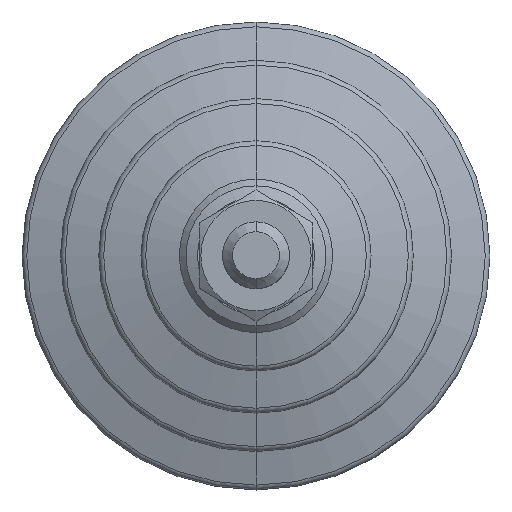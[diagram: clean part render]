
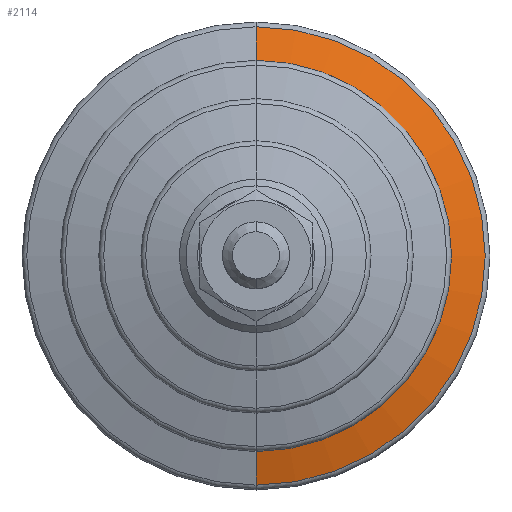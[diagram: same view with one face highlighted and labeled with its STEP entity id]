
A CAD part, top view. The second image highlights one B-rep face of the part: STEP entity #2114.
In plain terms, the highlighted conical face has half-angle 73.301 degrees and reference radius 29.262 mm.
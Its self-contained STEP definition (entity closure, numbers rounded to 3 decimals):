
#90 = CARTESIAN_POINT ( 'NONE',  ( 0., -29.262, 8.672 ) ) ;
#93 = VECTOR ( 'NONE', #1466, 1000. ) ;
#123 = LINE ( 'NONE', #90, #1906 ) ;
#137 = DIRECTION ( 'NONE',  ( 0., 0., -1. ) ) ;
#171 = AXIS2_PLACEMENT_3D ( 'NONE', #1662, #1879, #619 ) ;
#262 = DIRECTION ( 'NONE',  ( 0., -0.958, -0.287 ) ) ;
#335 = ORIENTED_EDGE ( 'NONE', *, *, #674, .T. ) ;
#513 = EDGE_CURVE ( 'NONE', #1470, #739, #830, .T. ) ;
#602 = CARTESIAN_POINT ( 'NONE',  ( 0., 0., 7.165 ) ) ;
#619 = DIRECTION ( 'NONE',  ( 0., 1., 0. ) ) ;
#644 = CIRCLE ( 'NONE', #794, 34.287 ) ;
#674 = EDGE_CURVE ( 'NONE', #739, #1273, #123, .T. ) ;
#730 = CARTESIAN_POINT ( 'NONE',  ( 0., 0., 8.672 ) ) ;
#734 = EDGE_CURVE ( 'NONE', #2218, #1273, #644, .T. ) ;
#739 = VERTEX_POINT ( 'NONE', #2236 ) ;
#771 = CONICAL_SURFACE ( 'NONE', #171, 29.262, 1.279 ) ;
#794 = AXIS2_PLACEMENT_3D ( 'NONE', #602, #816, #1158 ) ;
#816 = DIRECTION ( 'NONE',  ( 0., 0., -1. ) ) ;
#830 = CIRCLE ( 'NONE', #1050, 29.262 ) ;
#1050 = AXIS2_PLACEMENT_3D ( 'NONE', #730, #137, #1962 ) ;
#1125 = ORIENTED_EDGE ( 'NONE', *, *, #734, .F. ) ;
#1142 = LINE ( 'NONE', #1688, #93 ) ;
#1158 = DIRECTION ( 'NONE',  ( 0., 1., 0. ) ) ;
#1250 = CARTESIAN_POINT ( 'NONE',  ( 0., 29.262, 8.672 ) ) ;
#1273 = VERTEX_POINT ( 'NONE', #1413 ) ;
#1299 = CARTESIAN_POINT ( 'NONE',  ( 0., 34.287, 7.165 ) ) ;
#1413 = CARTESIAN_POINT ( 'NONE',  ( 0., -34.287, 7.165 ) ) ;
#1466 = DIRECTION ( 'NONE',  ( 0., 0.958, -0.287 ) ) ;
#1470 = VERTEX_POINT ( 'NONE', #1250 ) ;
#1662 = CARTESIAN_POINT ( 'NONE',  ( 0., 0., 8.672 ) ) ;
#1688 = CARTESIAN_POINT ( 'NONE',  ( 0., 29.262, 8.672 ) ) ;
#1771 = ORIENTED_EDGE ( 'NONE', *, *, #2196, .F. ) ;
#1853 = FACE_OUTER_BOUND ( 'NONE', #2012, .T. ) ;
#1879 = DIRECTION ( 'NONE',  ( 0., 0., -1. ) ) ;
#1906 = VECTOR ( 'NONE', #262, 1000. ) ;
#1962 = DIRECTION ( 'NONE',  ( 0., 1., 0. ) ) ;
#2012 = EDGE_LOOP ( 'NONE', ( #2110, #335, #1125, #1771 ) ) ;
#2110 = ORIENTED_EDGE ( 'NONE', *, *, #513, .T. ) ;
#2114 = ADVANCED_FACE ( 'NONE', ( #1853 ), #771, .T. ) ;
#2196 = EDGE_CURVE ( 'NONE', #1470, #2218, #1142, .T. ) ;
#2218 = VERTEX_POINT ( 'NONE', #1299 ) ;
#2236 = CARTESIAN_POINT ( 'NONE',  ( 0., -29.262, 8.672 ) ) ;
